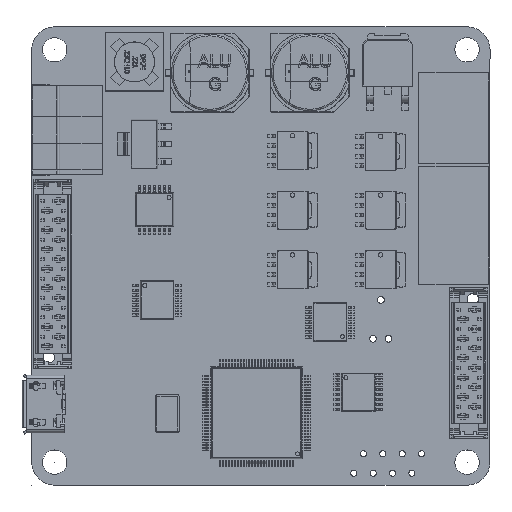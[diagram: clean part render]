
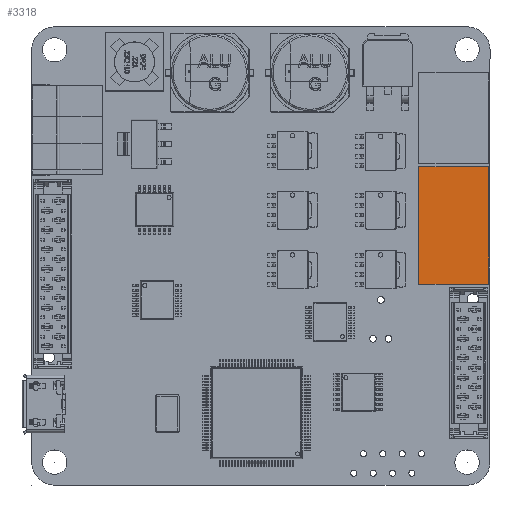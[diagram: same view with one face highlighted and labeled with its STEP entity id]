
A CAD part, top view. The second image highlights one B-rep face of the part: STEP entity #3318.
In plain terms, the highlighted planar face has unit normal (0, 0, 1).
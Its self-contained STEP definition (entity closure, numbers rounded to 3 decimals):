
#3318 = ADVANCED_FACE ( 'NONE', ( #348221 ), #16617, .T. ) ;
#16617 = PLANE ( 'NONE',  #372899 ) ;
#21103 = EDGE_CURVE ( 'NONE', #103456, #217631, #334480, .T. ) ;
#29706 = CARTESIAN_POINT ( 'NONE',  ( 59.822, 41.696, 6.908 ) ) ;
#35073 = DIRECTION ( 'NONE',  ( 0., -1., 0. ) ) ;
#36246 = DIRECTION ( 'NONE',  ( 1., 0., 0. ) ) ;
#46055 = LINE ( 'NONE', #160559, #457599 ) ;
#62376 = EDGE_CURVE ( 'NONE', #141176, #103456, #46055, .T. ) ;
#95212 = DIRECTION ( 'NONE',  ( 0., 0., 1. ) ) ;
#101053 = ORIENTED_EDGE ( 'NONE', *, *, #62376, .T. ) ;
#103456 = VERTEX_POINT ( 'NONE', #442897 ) ;
#124992 = VERTEX_POINT ( 'NONE', #432248 ) ;
#141176 = VERTEX_POINT ( 'NONE', #283411 ) ;
#159411 = LINE ( 'NONE', #302923, #508501 ) ;
#160559 = CARTESIAN_POINT ( 'NONE',  ( 50.678, 41.696, 6.908 ) ) ;
#172391 = VECTOR ( 'NONE', #430649, 1000. ) ;
#217631 = VERTEX_POINT ( 'NONE', #229312 ) ;
#229312 = CARTESIAN_POINT ( 'NONE',  ( 59.822, 26.304, 6.908 ) ) ;
#234453 = EDGE_CURVE ( 'NONE', #217631, #124992, #159411, .T. ) ;
#253586 = VECTOR ( 'NONE', #36246, 1000. ) ;
#274989 = CARTESIAN_POINT ( 'NONE',  ( 59.822, 26.304, 6.908 ) ) ;
#283411 = CARTESIAN_POINT ( 'NONE',  ( 50.678, 41.696, 6.908 ) ) ;
#293869 = CARTESIAN_POINT ( 'NONE',  ( 59.822, 41.696, 6.908 ) ) ;
#295392 = EDGE_CURVE ( 'NONE', #124992, #141176, #409459, .T. ) ;
#302923 = CARTESIAN_POINT ( 'NONE',  ( 59.822, 41.696, 6.908 ) ) ;
#334480 = LINE ( 'NONE', #274989, #253586 ) ;
#336368 = EDGE_LOOP ( 'NONE', ( #465168, #363155, #355881, #101053 ) ) ;
#348221 = FACE_OUTER_BOUND ( 'NONE', #336368, .T. ) ;
#355881 = ORIENTED_EDGE ( 'NONE', *, *, #295392, .T. ) ;
#363155 = ORIENTED_EDGE ( 'NONE', *, *, #234453, .T. ) ;
#372899 = AXIS2_PLACEMENT_3D ( 'NONE', #293869, #95212, #374097 ) ;
#374097 = DIRECTION ( 'NONE',  ( 1., 0., 0. ) ) ;
#409459 = LINE ( 'NONE', #29706, #172391 ) ;
#423245 = DIRECTION ( 'NONE',  ( 0., 1., 0. ) ) ;
#430649 = DIRECTION ( 'NONE',  ( -1., 0., 0. ) ) ;
#432248 = CARTESIAN_POINT ( 'NONE',  ( 59.822, 41.696, 6.908 ) ) ;
#442897 = CARTESIAN_POINT ( 'NONE',  ( 50.678, 26.304, 6.908 ) ) ;
#457599 = VECTOR ( 'NONE', #35073, 1000. ) ;
#465168 = ORIENTED_EDGE ( 'NONE', *, *, #21103, .T. ) ;
#508501 = VECTOR ( 'NONE', #423245, 1000. ) ;
